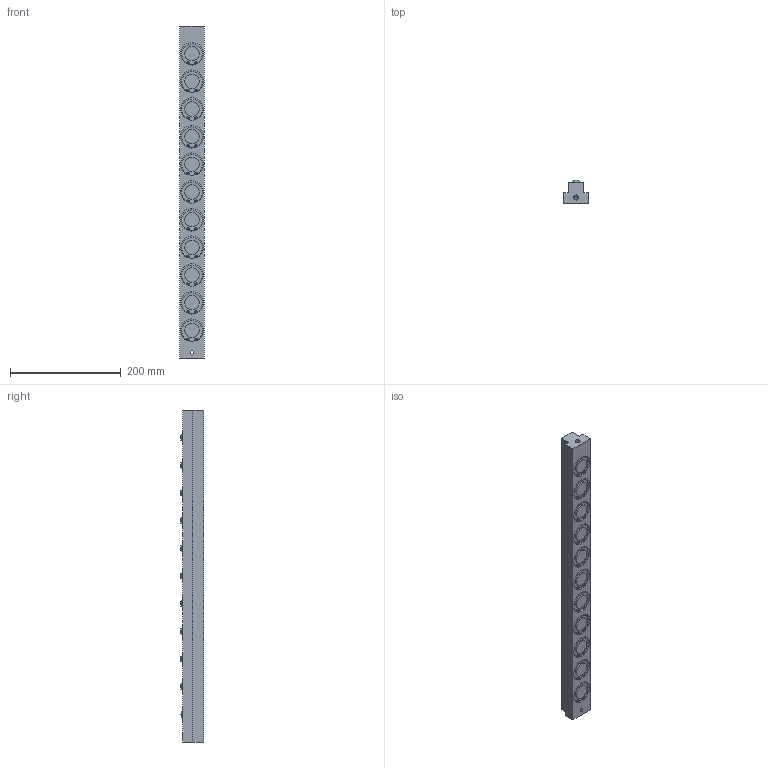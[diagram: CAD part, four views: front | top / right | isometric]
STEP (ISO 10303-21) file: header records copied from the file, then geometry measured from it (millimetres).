
FILE_DESCRIPTION (( 'STEP AP203' ), '1' );
FILE_NAME ('PVL50T-11.STEP', '2015-12-24T09:02:22', ( '' ), ( '' ), 'SwSTEP 2.0', 'SolidWorks 2013', '' );
FILE_SCHEMA (( 'CONFIG_CONTROL_DESIGN' ));
Length unit declared in the file: millimetre
Products named in the file (1): PVL50T-11
Bounding box: 45 x 42 x 600 mm (x, y, z)
Volume: 810138 mm3; surface area: 120454.7 mm2
Topology: 1 solids, 1 shells, 363 faces, 855 edges, 572 vertices
Faces by surface type: cylinder 226, plane 111, sphere 22, cone 4
Entity records: 10790 total; most frequent: DIRECTION 2103, CARTESIAN_POINT 1789, ORIENTED_EDGE 1706, AXIS2_PLACEMENT_3D 886, EDGE_CURVE 853, VERTEX_POINT 572, CIRCLE 522, EDGE_LOOP 445
